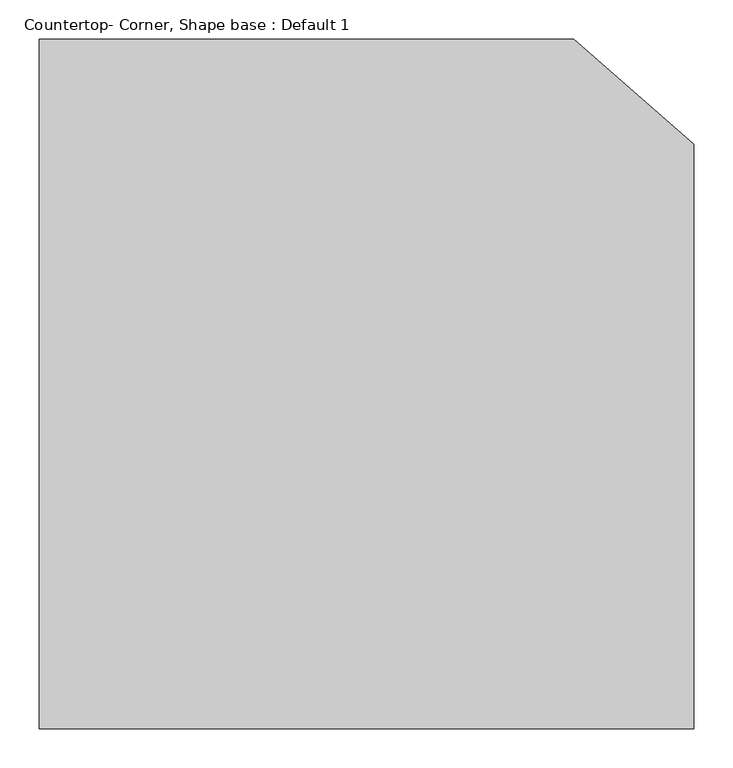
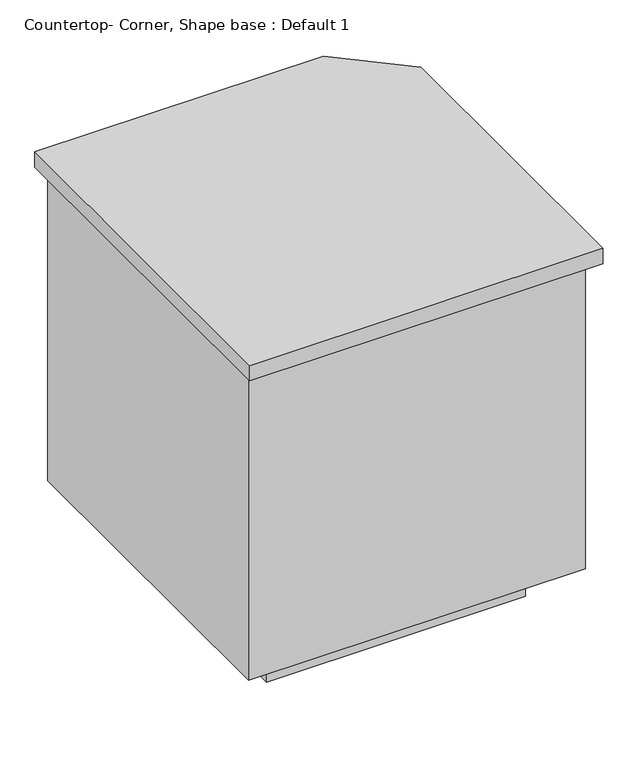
"""IFC4 building model written with IfcOpenShell, lengths in millimetres: proxy geometry, Countertop- Corner, Shape base : Default 1."""

from ifc_helpers import new_model, si_unit, frame, origin, origin_with_axes, place, context, project, spatial, polyline, outline, extrude, source, transform, mapped, element, save


def countertop_corner_shape_base_default_1_b8208f22(model_context):
    return source(origin(), model_context, "Body", "SweptSolid", [
        extrude(outline(polyline([(692.65, -19.05), (692.65, 857.25), (1372.1, 857.25), (1524.5, 723.9), (1524.5, -19.05), (692.65, -19.05)])), frame((0.0, 0.0, 876.3), z_axis=(0.0, 0.0, 1.0), x_axis=(1.0, 0.0, 0.0)), (0.0, 0.0, 1.0), 38.1),
        extrude(outline(polyline([(711.7, 838.2), (1353.05, 838.2), (1505.45, 704.85), (1505.45, 19.05), (711.7, 19.05), (711.7, 838.2)])), frame((0.0, 0.0, 101.6), z_axis=(0.0, 0.0, 1.0), x_axis=(1.0, 0.0, 0.0)), (0.0, 0.0, 1.0), 774.7),
        extrude(outline(polyline([(813.3, 736.6), (1276.6954163, 736.6), (1422.9, 603.25), (1422.9, 120.65), (813.3, 120.65), (813.3, 736.6)])), origin_with_axes(), (0.0, 0.0, 1.0), 101.6),
    ])


if __name__ == "__main__":
    model = new_model("IFC4")
    model_context = context("Model", 3, world=origin())
    ifc_project = project(units=[si_unit("LENGTHUNIT", "METRE", prefix="MILLI")], contexts=[model_context])
    site = spatial("IfcSite", under=ifc_project)
    building = spatial("IfcBuilding", under=site)
    placement = place(None, origin())
    countertop_corner_shape_base_default_1_shape = countertop_corner_shape_base_default_1_b8208f22(model_context)
    element("IfcBuildingElementProxy", 1, Name="Countertop- Corner, Shape base : Default 1", ObjectType="Countertop- Corner, Shape base : Default 1", at=placement, inside=building, context=model_context, shape_type="MappedRepresentation", body=[
        mapped(countertop_corner_shape_base_default_1_shape, transform((0.0, 0.0, 0.0), x_axis=(1.0, 0.0, 0.0), y_axis=(0.0, 1.0, 0.0), z_axis=(0.0, 0.0, 1.0))),
    ])
    save(model, "model.ifc")
